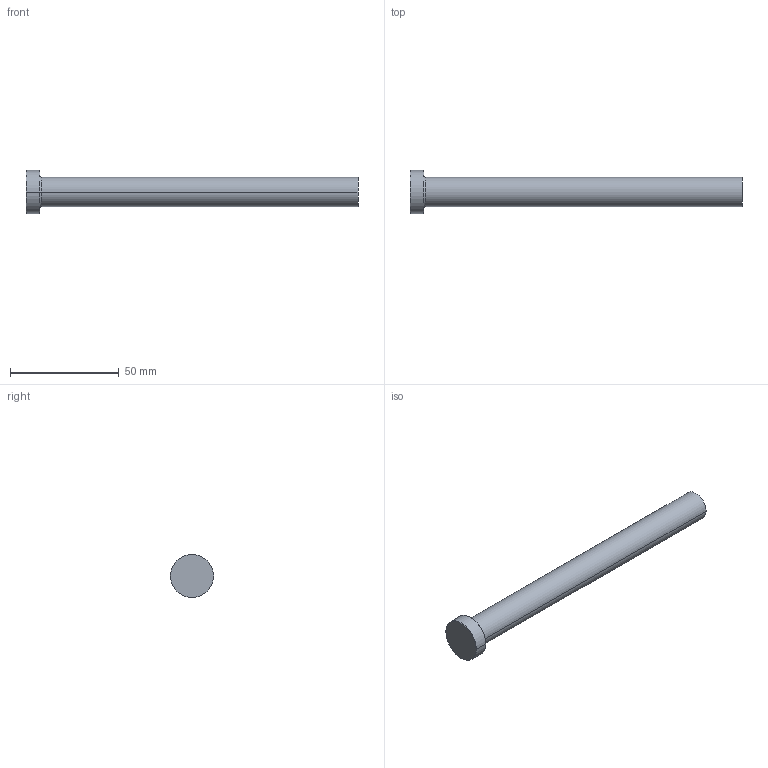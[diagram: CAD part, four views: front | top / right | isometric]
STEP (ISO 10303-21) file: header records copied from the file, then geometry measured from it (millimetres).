
FILE_DESCRIPTION (( 'STEP AP214' ), '1' );
FILE_NAME ('P34-6.STEP', '2020-03-12T11:50:28', ( '' ), ( '' ), 'SwSTEP 2.0', 'SolidWorks 2018', '' );
FILE_SCHEMA (( 'AUTOMOTIVE_DESIGN' ));
Length unit declared in the file: inch
Products named in the file (1): P34-6
Bounding box: 152.4 x 19.84 x 19.84 mm (x, y, z)
Volume: 22815.4 mm3; surface area: 7178.9 mm2
Topology: 1 solids, 1 shells, 13 faces, 24 edges, 14 vertices
Faces by surface type: cone 4, cylinder 4, plane 3, torus 2
Entity records: 366 total; most frequent: DIRECTION 68, CARTESIAN_POINT 52, ORIENTED_EDGE 48, AXIS2_PLACEMENT_3D 30, EDGE_CURVE 24, CIRCLE 16, EDGE_LOOP 14, VERTEX_POINT 14
